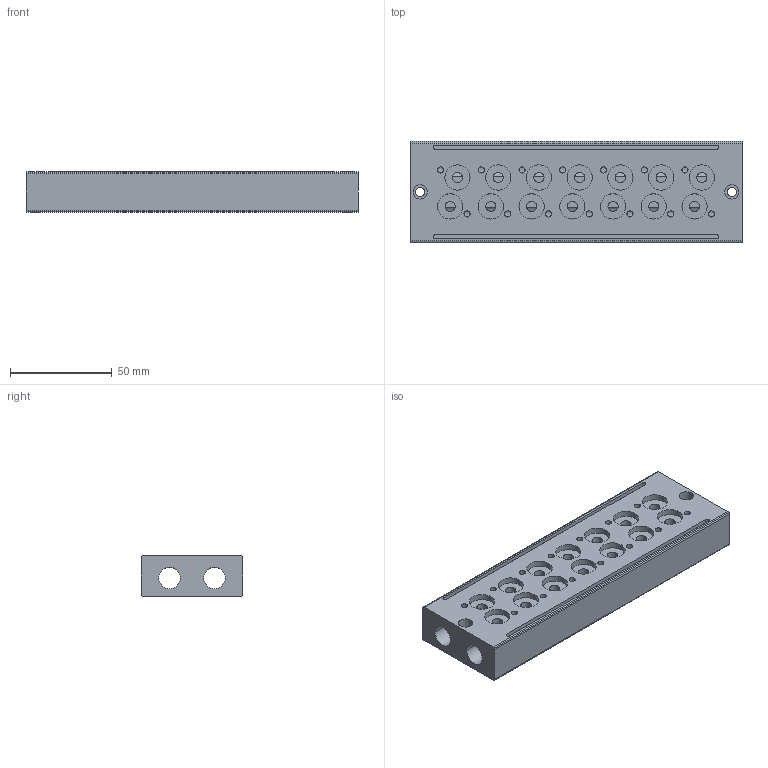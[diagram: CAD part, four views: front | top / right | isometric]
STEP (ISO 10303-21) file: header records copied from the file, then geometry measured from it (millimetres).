
FILE_DESCRIPTION((''),'2;1');
FILE_NAME('05_017_2.stp','2003-01-01T23:08:52',('Branislav Petkovic'),('AZ Pneumatica'),'AutoCAD STEP 2000i','AutoCAD 2000i','Via J. F. Kennedy, 26, 20020 Misinto (MI), ITALY');
FILE_SCHEMA(('CONFIG_CONTROL_DESIGN'));
Length unit declared in the file: millimetre
Products named in the file (2): 05_017_2; PART1
Assembly tree (1 placements, depth 2):
  05_017_2
    PART1
Bounding box: 163 x 50 x 20 mm (x, y, z)
Surface area: 39541 mm2 (no closed solid volume)
Topology: 0 solids, 1 shells, 154 faces, 416 edges, 282 vertices
Faces by surface type: cylinder 112, plane 42
Entity records: 6224 total; most frequent: CARTESIAN_POINT 1991, DIRECTION 882, ORIENTED_EDGE 832, EDGE_CURVE 416, AXIS2_PLACEMENT_3D 366, VERTEX_POINT 282, EDGE_LOOP 236, CIRCLE 210
